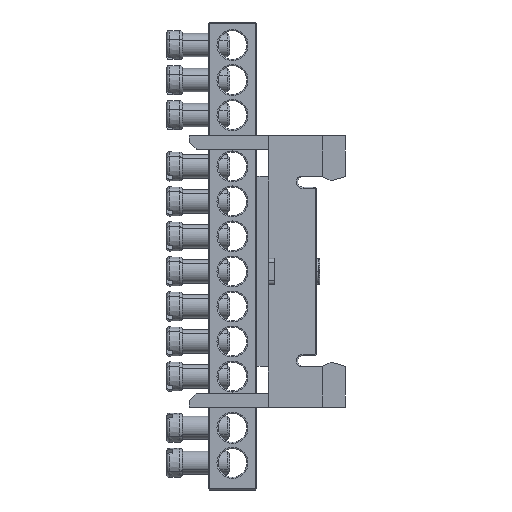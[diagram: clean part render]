
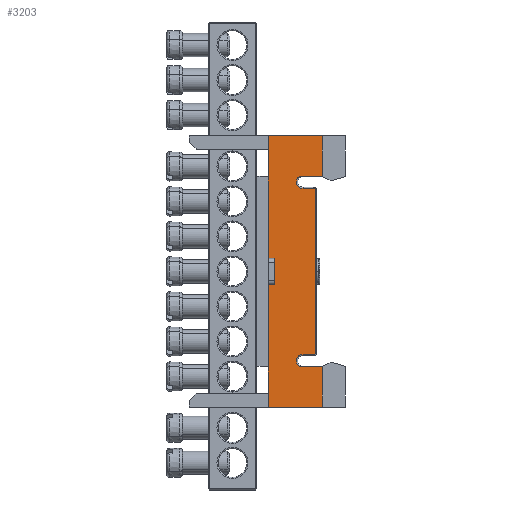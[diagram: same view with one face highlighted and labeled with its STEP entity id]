
A CAD part, left-side view. The second image highlights one B-rep face of the part: STEP entity #3203.
In plain terms, the highlighted planar face has unit normal (-1, 0, 0).
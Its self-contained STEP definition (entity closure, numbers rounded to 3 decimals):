
#2756 = EDGE_CURVE ( 'NONE', #2757, #2870, #17709, .T. ) ;
#2757 = VERTEX_POINT ( 'NONE', #17705 ) ;
#2804 = VERTEX_POINT ( 'NONE', #17612 ) ;
#2859 = VERTEX_POINT ( 'NONE', #17856 ) ;
#2870 = VERTEX_POINT ( 'NONE', #17947 ) ;
#2872 = EDGE_CURVE ( 'NONE', #2757, #2873, #17946, .T. ) ;
#2873 = VERTEX_POINT ( 'NONE', #17942 ) ;
#2876 = VERTEX_POINT ( 'NONE', #17940 ) ;
#2878 = EDGE_CURVE ( 'NONE', #2879, #2876, #17933, .T. ) ;
#2879 = VERTEX_POINT ( 'NONE', #17929 ) ;
#2897 = EDGE_CURVE ( 'NONE', #2804, #2859, #17742, .T. ) ;
#2978 = EDGE_CURVE ( 'NONE', #3056, #3368, #17998, .T. ) ;
#3050 = VERTEX_POINT ( 'NONE', #24810 ) ;
#3051 = ORIENTED_EDGE ( 'NONE', *, *, #3052, .T. ) ;
#3052 = EDGE_CURVE ( 'NONE', #3050, #3053, #24809, .T. ) ;
#3053 = VERTEX_POINT ( 'NONE', #24804 ) ;
#3054 = ORIENTED_EDGE ( 'NONE', *, *, #3055, .T. ) ;
#3055 = EDGE_CURVE ( 'NONE', #3053, #3056, #24802, .T. ) ;
#3056 = VERTEX_POINT ( 'NONE', #18311 ) ;
#3057 = ORIENTED_EDGE ( 'NONE', *, *, #2978, .T. ) ;
#3073 = EDGE_LOOP ( 'NONE', ( #3074, #3075, #3187, #3190, #3214, #3216, #3217, #3220, #3235, #3051, #3054, #3057, #3369, #3372, #3587, #3483, #3485, #3399 ) ) ;
#3074 = ORIENTED_EDGE ( 'NONE', *, *, #3138, .T. ) ;
#3075 = ORIENTED_EDGE ( 'NONE', *, *, #2897, .F. ) ;
#3138 = EDGE_CURVE ( 'NONE', #2870, #2859, #18272, .T. ) ;
#3187 = ORIENTED_EDGE ( 'NONE', *, *, #3188, .F. ) ;
#3188 = EDGE_CURVE ( 'NONE', #3189, #2804, #18408, .T. ) ;
#3189 = VERTEX_POINT ( 'NONE', #18404 ) ;
#3190 = ORIENTED_EDGE ( 'NONE', *, *, #3191, .T. ) ;
#3191 = EDGE_CURVE ( 'NONE', #3189, #3192, #18403, .T. ) ;
#3192 = VERTEX_POINT ( 'NONE', #18399 ) ;
#3203 = ADVANCED_FACE ( 'NONE', ( #18565 ), #18490, .F. ) ;
#3214 = ORIENTED_EDGE ( 'NONE', *, *, #3215, .T. ) ;
#3215 = EDGE_CURVE ( 'NONE', #3192, #2879, #18467, .T. ) ;
#3216 = ORIENTED_EDGE ( 'NONE', *, *, #2878, .T. ) ;
#3217 = ORIENTED_EDGE ( 'NONE', *, *, #3218, .F. ) ;
#3218 = EDGE_CURVE ( 'NONE', #3219, #2876, #18463, .T. ) ;
#3219 = VERTEX_POINT ( 'NONE', #18459 ) ;
#3220 = ORIENTED_EDGE ( 'NONE', *, *, #3233, .F. ) ;
#3233 = EDGE_CURVE ( 'NONE', #3234, #3219, #18458, .T. ) ;
#3234 = VERTEX_POINT ( 'NONE', #18548 ) ;
#3235 = ORIENTED_EDGE ( 'NONE', *, *, #3236, .T. ) ;
#3236 = EDGE_CURVE ( 'NONE', #3234, #3050, #18547, .T. ) ;
#3368 = VERTEX_POINT ( 'NONE', #18952 ) ;
#3369 = ORIENTED_EDGE ( 'NONE', *, *, #3370, .T. ) ;
#3370 = EDGE_CURVE ( 'NONE', #3368, #3371, #18951, .T. ) ;
#3371 = VERTEX_POINT ( 'NONE', #18947 ) ;
#3372 = ORIENTED_EDGE ( 'NONE', *, *, #3373, .T. ) ;
#3373 = EDGE_CURVE ( 'NONE', #3371, #3374, #18946, .T. ) ;
#3374 = VERTEX_POINT ( 'NONE', #18941 ) ;
#3399 = ORIENTED_EDGE ( 'NONE', *, *, #2756, .T. ) ;
#3483 = ORIENTED_EDGE ( 'NONE', *, *, #3484, .T. ) ;
#3484 = EDGE_CURVE ( 'NONE', #3589, #2873, #19141, .T. ) ;
#3485 = ORIENTED_EDGE ( 'NONE', *, *, #2872, .F. ) ;
#3587 = ORIENTED_EDGE ( 'NONE', *, *, #3588, .T. ) ;
#3588 = EDGE_CURVE ( 'NONE', #3374, #3589, #19548, .T. ) ;
#3589 = VERTEX_POINT ( 'NONE', #19544 ) ;
#17612 = CARTESIAN_POINT ( 'NONE',  ( -8.2, -6.6, 2.4 ) ) ;
#17705 = CARTESIAN_POINT ( 'NONE',  ( -8.2, -18.567, 17.5 ) ) ;
#17706 = DIRECTION ( 'NONE',  ( 0., 0., 1. ) ) ;
#17707 = VECTOR ( 'NONE', #17706, 1000. ) ;
#17708 = CARTESIAN_POINT ( 'NONE',  ( -8.2, -18.567, 17.5 ) ) ;
#17709 = LINE ( 'NONE', #17708, #17707 ) ;
#17739 = DIRECTION ( 'NONE',  ( 0., 0., 1. ) ) ;
#17740 = VECTOR ( 'NONE', #17739, 1000. ) ;
#17741 = CARTESIAN_POINT ( 'NONE',  ( -8.2, -6.6, 17.5 ) ) ;
#17742 = LINE ( 'NONE', #17741, #17740 ) ;
#17856 = CARTESIAN_POINT ( 'NONE',  ( -8.2, -6.6, 25. ) ) ;
#17929 = CARTESIAN_POINT ( 'NONE',  ( -8.2, -6.6, -2.4 ) ) ;
#17930 = DIRECTION ( 'NONE',  ( 0., 0., -1. ) ) ;
#17931 = VECTOR ( 'NONE', #17930, 1000. ) ;
#17932 = CARTESIAN_POINT ( 'NONE',  ( -8.2, -6.6, -17.5 ) ) ;
#17933 = LINE ( 'NONE', #17932, #17931 ) ;
#17940 = CARTESIAN_POINT ( 'NONE',  ( -8.2, -6.6, -25. ) ) ;
#17942 = CARTESIAN_POINT ( 'NONE',  ( -8.2, -12.337, 17.5 ) ) ;
#17943 = DIRECTION ( 'NONE',  ( 0., 1., 0. ) ) ;
#17944 = VECTOR ( 'NONE', #17943, 1000. ) ;
#17945 = CARTESIAN_POINT ( 'NONE',  ( -8.2, -35.302, 17.5 ) ) ;
#17946 = LINE ( 'NONE', #17945, #17944 ) ;
#17947 = CARTESIAN_POINT ( 'NONE',  ( -8.2, -18.567, 25. ) ) ;
#17995 = DIRECTION ( 'NONE',  ( 0., 0., -1. ) ) ;
#17996 = DIRECTION ( 'NONE',  ( -1., 0., 0. ) ) ;
#17997 = AXIS2_PLACEMENT_3D ( 'NONE', #18003, #17996, #17995 ) ;
#17998 = CIRCLE ( 'NONE', #17997, 0.3 ) ;
#18003 = CARTESIAN_POINT ( 'NONE',  ( -8.2, -15., -15. ) ) ;
#18269 = DIRECTION ( 'NONE',  ( 0., 1., 0. ) ) ;
#18270 = VECTOR ( 'NONE', #18269, 1000. ) ;
#18271 = CARTESIAN_POINT ( 'NONE',  ( -8.2, -35.302, 25. ) ) ;
#18272 = LINE ( 'NONE', #18271, #18270 ) ;
#18311 = CARTESIAN_POINT ( 'NONE',  ( -8.2, -15., -15.3 ) ) ;
#18312 = DIRECTION ( 'NONE',  ( 0., -1., 0. ) ) ;
#18399 = CARTESIAN_POINT ( 'NONE',  ( -8.2, -7.8, -2.4 ) ) ;
#18400 = DIRECTION ( 'NONE',  ( 0., 0., -1. ) ) ;
#18401 = VECTOR ( 'NONE', #18400, 1000. ) ;
#18402 = CARTESIAN_POINT ( 'NONE',  ( -8.2, -7.8, -2.4 ) ) ;
#18403 = LINE ( 'NONE', #18402, #18401 ) ;
#18404 = CARTESIAN_POINT ( 'NONE',  ( -8.2, -7.8, 2.4 ) ) ;
#18405 = DIRECTION ( 'NONE',  ( 0., 1., 0. ) ) ;
#18406 = VECTOR ( 'NONE', #18405, 1000. ) ;
#18407 = CARTESIAN_POINT ( 'NONE',  ( -8.2, -7.8, 2.4 ) ) ;
#18408 = LINE ( 'NONE', #18407, #18406 ) ;
#18458 = LINE ( 'NONE', #18551, #18550 ) ;
#18459 = CARTESIAN_POINT ( 'NONE',  ( -8.2, -18.567, -25. ) ) ;
#18460 = DIRECTION ( 'NONE',  ( 0., 1., 0. ) ) ;
#18461 = VECTOR ( 'NONE', #18460, 1000. ) ;
#18462 = CARTESIAN_POINT ( 'NONE',  ( -8.2, -35.302, -25. ) ) ;
#18463 = LINE ( 'NONE', #18462, #18461 ) ;
#18464 = DIRECTION ( 'NONE',  ( 0., 1., 0. ) ) ;
#18465 = VECTOR ( 'NONE', #18464, 1000. ) ;
#18466 = CARTESIAN_POINT ( 'NONE',  ( -8.2, -7.8, -2.4 ) ) ;
#18467 = LINE ( 'NONE', #18466, #18465 ) ;
#18486 = DIRECTION ( 'NONE',  ( 0., 0., -1. ) ) ;
#18487 = DIRECTION ( 'NONE',  ( 1., 0., 0. ) ) ;
#18488 = CARTESIAN_POINT ( 'NONE',  ( -8.2, -35.302, 17.5 ) ) ;
#18489 = AXIS2_PLACEMENT_3D ( 'NONE', #18488, #18487, #18486 ) ;
#18490 = PLANE ( 'NONE',  #18489 ) ;
#18544 = DIRECTION ( 'NONE',  ( 0., 1., 0. ) ) ;
#18545 = VECTOR ( 'NONE', #18544, 1000. ) ;
#18546 = CARTESIAN_POINT ( 'NONE',  ( -8.2, -35.302, -17.5 ) ) ;
#18547 = LINE ( 'NONE', #18546, #18545 ) ;
#18548 = CARTESIAN_POINT ( 'NONE',  ( -8.2, -18.567, -17.5 ) ) ;
#18549 = DIRECTION ( 'NONE',  ( 0., 0., -1. ) ) ;
#18550 = VECTOR ( 'NONE', #18549, 1000. ) ;
#18551 = CARTESIAN_POINT ( 'NONE',  ( -8.2, -18.567, -17.5 ) ) ;
#18565 = FACE_OUTER_BOUND ( 'NONE', #3073, .T. ) ;
#18941 = CARTESIAN_POINT ( 'NONE',  ( -8.2, -15., 15.3 ) ) ;
#18942 = DIRECTION ( 'NONE',  ( 0., 0., -1. ) ) ;
#18943 = DIRECTION ( 'NONE',  ( -1., 0., 0. ) ) ;
#18944 = CARTESIAN_POINT ( 'NONE',  ( -8.2, -15., 15. ) ) ;
#18945 = AXIS2_PLACEMENT_3D ( 'NONE', #18944, #18943, #18942 ) ;
#18946 = CIRCLE ( 'NONE', #18945, 0.3 ) ;
#18947 = CARTESIAN_POINT ( 'NONE',  ( -8.2, -15.3, 15. ) ) ;
#18948 = DIRECTION ( 'NONE',  ( 0., 0., 1. ) ) ;
#18949 = VECTOR ( 'NONE', #18948, 1000. ) ;
#18950 = CARTESIAN_POINT ( 'NONE',  ( -8.2, -15.3, -17.5 ) ) ;
#18951 = LINE ( 'NONE', #18950, #18949 ) ;
#18952 = CARTESIAN_POINT ( 'NONE',  ( -8.2, -15.3, -15. ) ) ;
#19133 = DIRECTION ( 'NONE',  ( 0., 0., -1. ) ) ;
#19134 = DIRECTION ( 'NONE',  ( 1., 0., 0. ) ) ;
#19135 = CARTESIAN_POINT ( 'NONE',  ( -8.2, -13., 16.5 ) ) ;
#19136 = AXIS2_PLACEMENT_3D ( 'NONE', #19135, #19134, #19133 ) ;
#19141 = CIRCLE ( 'NONE', #19136, 1.2 ) ;
#19544 = CARTESIAN_POINT ( 'NONE',  ( -8.2, -13., 15.3 ) ) ;
#19545 = DIRECTION ( 'NONE',  ( 0., 1., 0. ) ) ;
#19546 = VECTOR ( 'NONE', #19545, 1000. ) ;
#19547 = CARTESIAN_POINT ( 'NONE',  ( -8.2, -15.5, 15.3 ) ) ;
#19548 = LINE ( 'NONE', #19547, #19546 ) ;
#24800 = VECTOR ( 'NONE', #18312, 1000. ) ;
#24801 = CARTESIAN_POINT ( 'NONE',  ( -8.2, -15.5, -15.3 ) ) ;
#24802 = LINE ( 'NONE', #24801, #24800 ) ;
#24804 = CARTESIAN_POINT ( 'NONE',  ( -8.2, -13., -15.3 ) ) ;
#24805 = DIRECTION ( 'NONE',  ( 0., 0., -1. ) ) ;
#24806 = DIRECTION ( 'NONE',  ( 1., 0., 0. ) ) ;
#24807 = CARTESIAN_POINT ( 'NONE',  ( -8.2, -13., -16.5 ) ) ;
#24808 = AXIS2_PLACEMENT_3D ( 'NONE', #24807, #24806, #24805 ) ;
#24809 = CIRCLE ( 'NONE', #24808, 1.2 ) ;
#24810 = CARTESIAN_POINT ( 'NONE',  ( -8.2, -12.337, -17.5 ) ) ;
